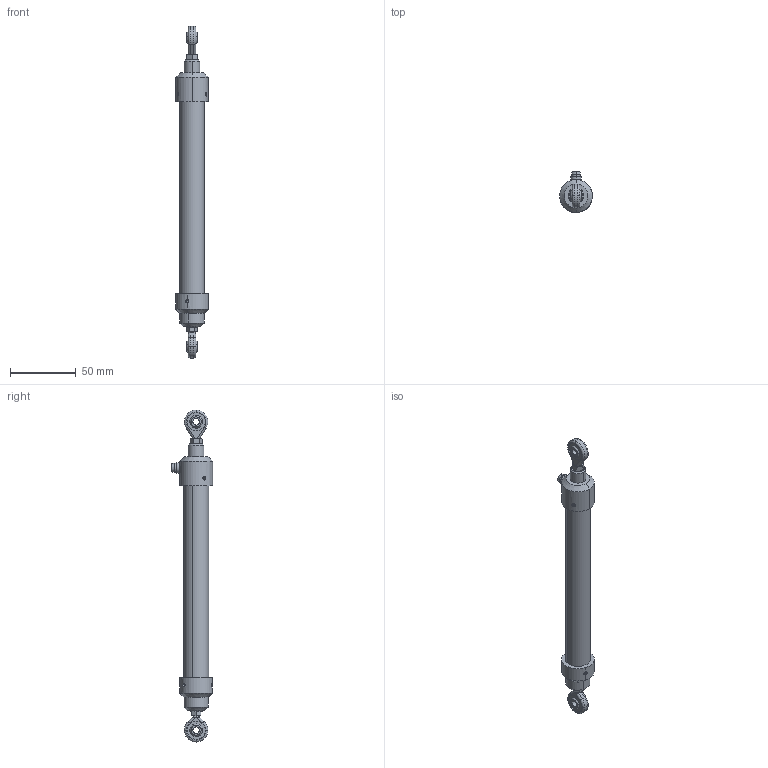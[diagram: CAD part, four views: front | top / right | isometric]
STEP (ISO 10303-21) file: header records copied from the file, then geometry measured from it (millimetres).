
FILE_DESCRIPTION (( 'STEP AP203' ), '1' );
FILE_NAME ('PZ67-A-100.STEP', '2016-02-10T14:34:45', ( '' ), ( '' ), 'SwSTEP 2.0', 'SolidWorks 2015', '' );
FILE_SCHEMA (( 'CONFIG_CONTROL_DESIGN' ));
Length unit declared in the file: millimetre
Products named in the file (16): MIM501x_MIM501; TES152x; SND018-1x; MIM205_MIM205; SND001-2x; MIM201_MIM201; SND018x; MIM292x_MIM292; CON007x; SND017-1x; PZ67-A-100; SND004-1x; SND017x; ALB092x; CUS084x; TES151x
Assembly tree (20 placements, depth 3):
  PZ67-A-100
    ALB092x
    TES151x
    TES152x
    MIM205_MIM205
    MIM201_MIM201
    MIM292x_MIM292  x6
    SND017x
      SND017-1x
      SND004-1x
    CUS084x
    MIM501x_MIM501
    SND018x
      SND018-1x
      SND001-2x
    CON007x
Bounding box: 25 x 31.3 x 253.26 mm (x, y, z)
Volume: 68418.9 mm3; surface area: 25939.8 mm2
Topology: 18 solids, 18 shells, 646 faces, 1578 edges, 967 vertices
Faces by surface type: cone 294, cylinder 196, plane 116, torus 15, bspline 14, sphere 11
Entity records: 15407 total; most frequent: CARTESIAN_POINT 3228, DIRECTION 2373, ORIENTED_EDGE 2052, EDGE_CURVE 1026, AXIS2_PLACEMENT_3D 1004, VERTEX_POINT 627, CIRCLE 547, EDGE_LOOP 499
